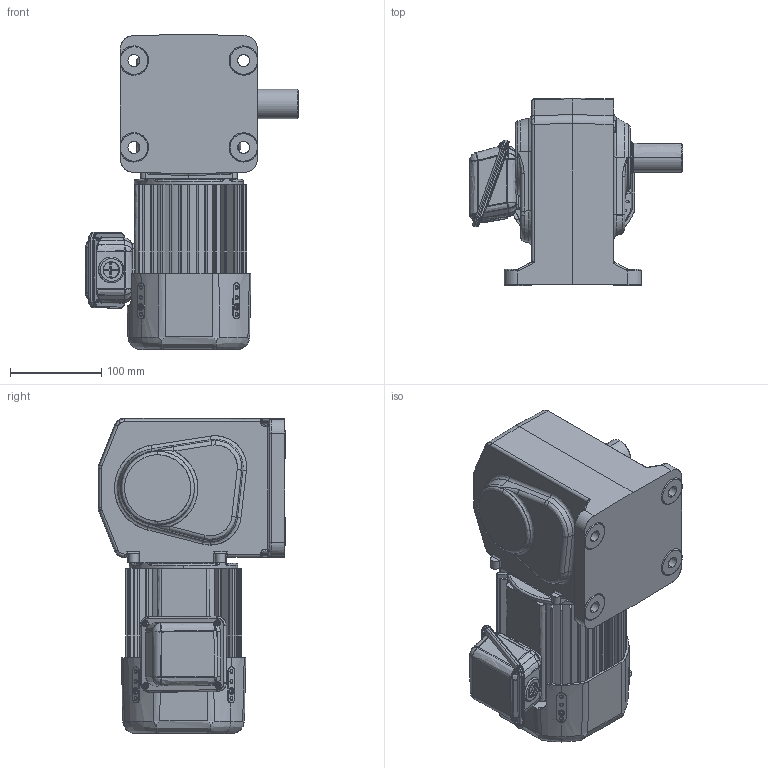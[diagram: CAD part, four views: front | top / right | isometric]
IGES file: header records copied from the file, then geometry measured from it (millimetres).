
Start section: SolidWorks IGES file using analytic representation for surfaces
Global section: file name: \\100.100.100.8\1_共有作業フォルダ\1-5_３Ｄデータ\solidworks\personal-folder\H.Nagayama\HL外形\HL(3D)\igs\TMHL-04-(80~240)B.IGS; native system: SolidWorks 2018; preprocessor: SolidWorks 2018; author: sigma-giken; date: 200324.142225; units: millimetre
Bounding box: 233 x 205 x 344.5 mm (x, y, z)
Surface area: 552181.9 mm2 (no closed solid volume)
Topology: 0 solids, 0 shells, 1870 faces, 24053 edges, 23974 vertices
Faces by surface type: bspline 955, revolution 915
